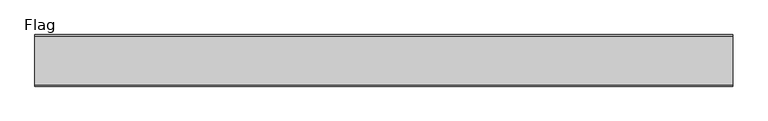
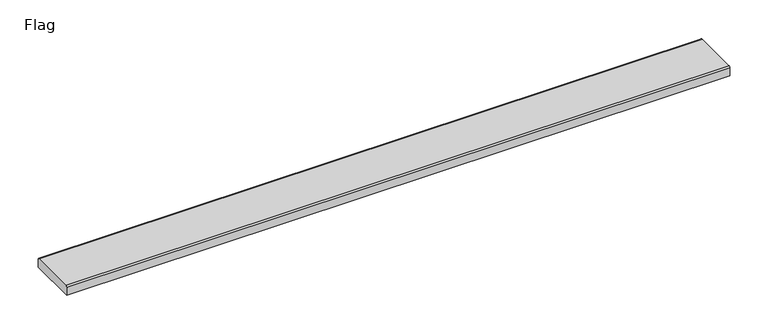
"""IFC4 building model written with IfcOpenShell, lengths in millimetres: sanitary terminal geometry, ZZZ_do not use_PF_ST_grating for showerdrain e_Aco : Flag."""

from ifc_helpers import new_model, si_unit, point, frame, frame_2d, origin, place, context, project, spatial, polyline, circle_curve, trimmed, segment, composite_curve, outline, extrude, source, transform, mapped, element, save


def flag_2725124b(model_context):
    return source(origin(), model_context, "Body", "SweptSolid", [
        extrude(outline(composite_curve([segment(polyline([(37.0, -15.0), (-37.0, -15.0), (-37.0, -1.977849)]), True, "CONTINUOUS"), segment(trimmed(circle_curve(frame_2d((-35.022151, -1.977849)), 1.977849), [point((-37.0, -1.977849))], [point((-35.022151, 0.0))], False, "CARTESIAN"), True, "CONTINUOUS"), segment(polyline([(-35.022151, 0.0), (35.022151, 0.0)]), True, "CONTINUOUS"), segment(trimmed(circle_curve(frame_2d((35.022151, -1.977849)), 1.977849), [point((35.022151, 0.0))], [point((37.0, -1.977849))], False, "CARTESIAN"), True, "CONTINUOUS"), segment(polyline([(37.0, -1.977849), (37.0, -15.0)]), True, "CONTINUOUS")], self_intersect=False)), frame((-500.0, 0.0, 0.0), z_axis=(1.0, 0.0, 0.0), x_axis=(0.0, 1.0, 0.0)), (0.0, 0.0, 1.0), 1000.0),
    ])


if __name__ == "__main__":
    model = new_model("IFC4")
    model_context = context("Model", 3, world=origin())
    ifc_project = project(units=[si_unit("LENGTHUNIT", "METRE", prefix="MILLI")], contexts=[model_context])
    site = spatial("IfcSite", under=ifc_project)
    building = spatial("IfcBuilding", under=site)
    placement = place(None, origin())
    flag_shape = flag_2725124b(model_context)
    element("IfcSanitaryTerminal", 1, ObjectType="ZZZ_do not use_PF_ST_grating for showerdrain e_Aco : Flag", at=placement, inside=building, context=model_context, shape_type="MappedRepresentation", body=[
        mapped(flag_shape, transform((0.0, 0.0, 0.0), x_axis=(1.0, 0.0, 0.0), y_axis=(0.0, 1.0, 0.0), z_axis=(0.0, 0.0, 1.0))),
    ])
    save(model, "model.ifc")
